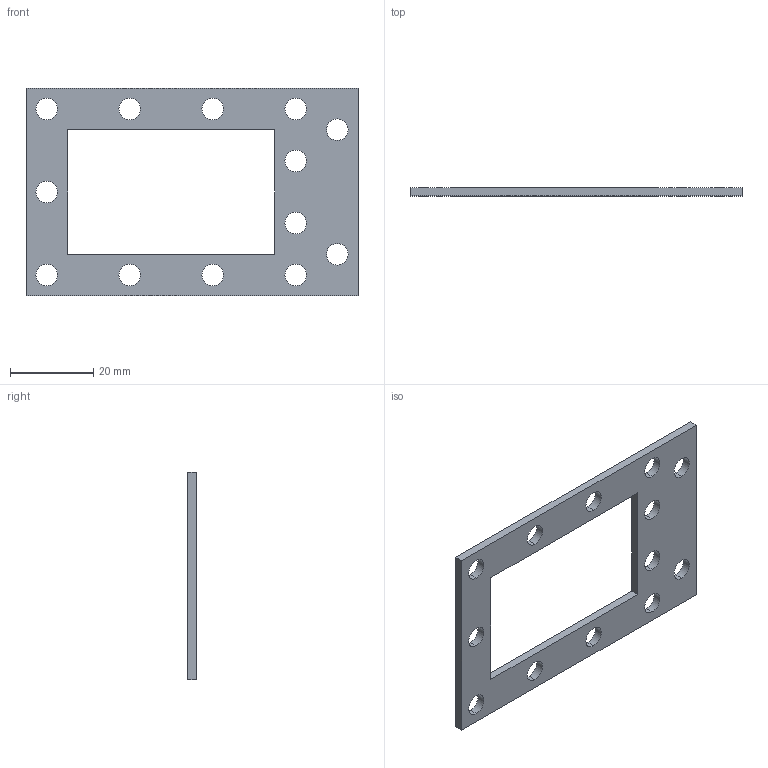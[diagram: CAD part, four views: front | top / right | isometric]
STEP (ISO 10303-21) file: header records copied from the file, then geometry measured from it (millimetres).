
FILE_DESCRIPTION (( 'STEP AP214' ), '1' );
FILE_NAME ('CESV-TS.STEP', '2019-05-17T11:40:08', ( '' ), ( '' ), 'SwSTEP 2.0', 'SolidWorks 2018', '' );
FILE_SCHEMA (( 'AUTOMOTIVE_DESIGN' ));
Length unit declared in the file: millimetre
Products named in the file (1): CESV-TS
Bounding box: 80 x 2 x 50 mm (x, y, z)
Volume: 4447.8 mm3; surface area: 5712.6 mm2
Topology: 1 solids, 1 shells, 36 faces, 102 edges, 68 vertices
Faces by surface type: cylinder 26, plane 10
Entity records: 1684 total; most frequent: DIRECTION 228, CARTESIAN_POINT 207, ORIENTED_EDGE 204, EDGE_CURVE 102, AXIS2_PLACEMENT_3D 89, VERTEX_POINT 68, EDGE_LOOP 64, CIRCLE 52
